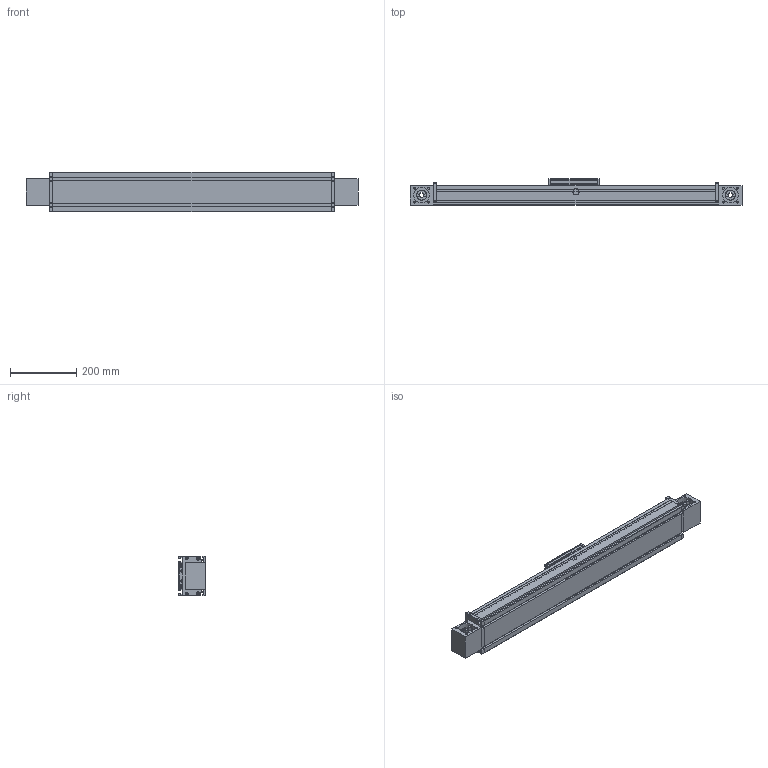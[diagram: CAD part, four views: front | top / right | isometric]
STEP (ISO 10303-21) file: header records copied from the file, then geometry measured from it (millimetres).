
FILE_DESCRIPTION (( 'STEP AP214' ), '1' );
FILE_NAME ('DLZ-120.STEP', '2016-01-14T09:56:00', ( 'admin' ), ( '' ), 'SwSTEP 2.0', 'SolidWorks 2015', '' );
FILE_SCHEMA (( 'AUTOMOTIVE_DESIGN' ));
Length unit declared in the file: millimetre
Products named in the file (6): Kopie von Bahr-DLZ-DLZ-120  1 0  0 0  0 4  430_DLZ End_Block(2)^DLZ120 S0 A0_DLZ-120-A; Kopie von Bahr-DLZ-DLZ-120  1 0  0 0  0 4  430_DLZ End_Block(1)^DLZ120 S0 A0_DLZ-120-B; Kopie von Bahr-DLZ-DLZ-120  1 0  0 0  0 4  430_DLZ Carriage 120^DLZ120 S0 A0_0; Kopie von Bahr-DLZ-DLZ-120  1 0  0 0  0 4  430_DLZ Extrusion 120^DLZ120 S0 A0; Kopie von Bahr-DLZ-DLZ-120  1 0  0 0  0 4  430_DLZ End Plate 120^DLZ120 S0 A0_0; DLZ-120
Assembly tree (6 placements, depth 2):
  DLZ-120
    Kopie von Bahr-DLZ-DLZ-120  1 0  0 0  0 4  430_DLZ End Plate 120^DLZ120 S0 A0_0  x2
    Kopie von Bahr-DLZ-DLZ-120  1 0  0 0  0 4  430_DLZ Extrusion 120^DLZ120 S0 A0
    Kopie von Bahr-DLZ-DLZ-120  1 0  0 0  0 4  430_DLZ Carriage 120^DLZ120 S0 A0_0
    Kopie von Bahr-DLZ-DLZ-120  1 0  0 0  0 4  430_DLZ End_Block(1)^DLZ120 S0 A0_DLZ-120-B
    Kopie von Bahr-DLZ-DLZ-120  1 0  0 0  0 4  430_DLZ End_Block(2)^DLZ120 S0 A0_DLZ-120-A
Bounding box: 1000 x 79 x 120.2 mm (x, y, z)
Volume: 6635457.6 mm3; surface area: 623697.3 mm2
Topology: 10 solids, 10 shells, 614 faces, 1576 edges, 1036 vertices
Faces by surface type: plane 408, cylinder 194, bspline 8, cone 4
Entity records: 16490 total; most frequent: CARTESIAN_POINT 3253, DIRECTION 2682, ORIENTED_EDGE 2656, EDGE_CURVE 1328, VECTOR 968, LINE 968, VERTEX_POINT 876, AXIS2_PLACEMENT_3D 857
